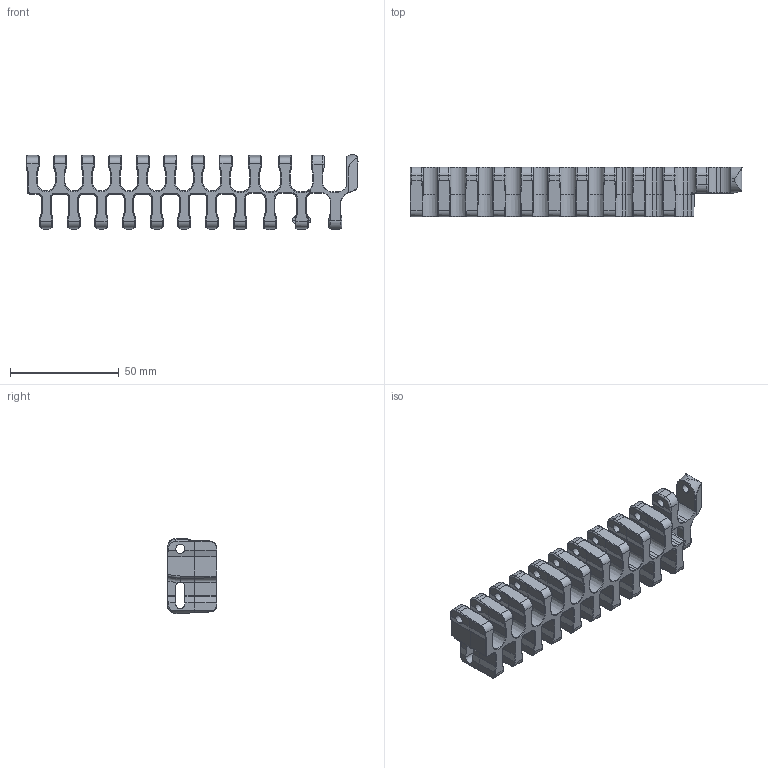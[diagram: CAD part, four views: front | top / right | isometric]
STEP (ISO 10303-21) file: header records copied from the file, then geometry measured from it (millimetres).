
FILE_DESCRIPTION((''),'2;1');
FILE_NAME('P1327','2013-12-16T',('mth'),(''),'PRO/ENGINEER BY PARAMETRIC TECHNOLOGY CORPORATION, 2013320','PRO/ENGINEER BY PARAMETRIC TECHNOLOGY CORPORATION, 2013320','');
FILE_SCHEMA(('AUTOMOTIVE_DESIGN { 1 0 10303 214 1 1 1 1 }'));
Products named in the file (1): P1327
Bounding box: 152.9 x 22.8 x 34.54 mm (x, y, z)
Volume: 41089.7 mm3; surface area: 25998.2 mm2
Topology: 1 solids, 1 shells, 1854 faces, 4457 edges, 2561 vertices
Faces by surface type: cylinder 737, plane 392, bspline 327, torus 222, cone 174, sphere 2
Entity records: 89546 total; most frequent: CARTESIAN_POINT 48471, ORIENTED_EDGE 8914, DIRECTION 8158, EDGE_CURVE 4457, AXIS2_PLACEMENT_3D 3097, VERTEX_POINT 2561, VECTOR 1964, LINE 1964
